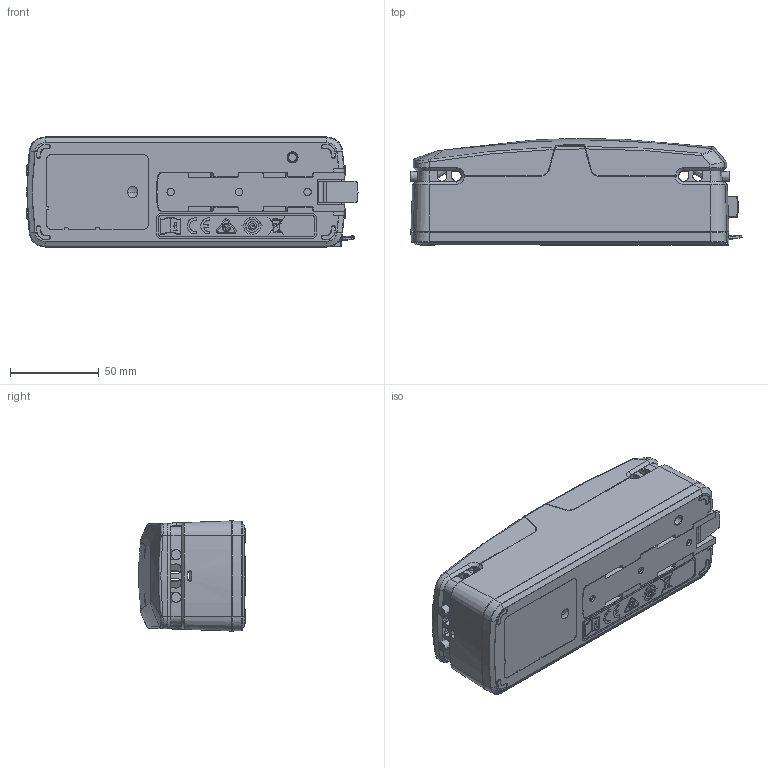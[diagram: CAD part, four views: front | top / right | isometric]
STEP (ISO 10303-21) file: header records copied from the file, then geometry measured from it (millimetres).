
FILE_DESCRIPTION((''),'2;1');
FILE_NAME('1038W4004_ASM','2018-09-26T17:41:06',('ti'),(''),'CREO PARAMETRIC BY PTC INC, 2017260','CREO PARAMETRIC BY PTC INC, 2017260','');
FILE_SCHEMA(('AUTOMOTIVE_DESIGN { 1 0 10303 214 1 1 1 1 }'));
Length unit declared in the file: millimetre
Products named in the file (6): 1038W4004-PJ2-BODY; 1038W4004-PJ2-PLUGS; 1038W4004-PJ2-LIB; 1038W4004-PJ2-BRACKET-BOTTOM; 1038W4004-PJ2-BRACKET-SIDE; 1038W4004_ASM
Assembly tree (5 placements, depth 2):
  1038W4004_ASM
    1038W4004-PJ2-BODY
    1038W4004-PJ2-PLUGS
    1038W4004-PJ2-LIB
    1038W4004-PJ2-BRACKET-BOTTOM
    1038W4004-PJ2-BRACKET-SIDE
Bounding box: 186.83 x 60.02 x 61.98 mm (x, y, z)
Volume: 449505.5 mm3; surface area: 121499.9 mm2
Topology: 8 solids, 8 shells, 4597 faces, 11870 edges, 7384 vertices
Faces by surface type: plane 1400, cylinder 1188, bspline 862, torus 735, cone 335, sphere 60, extrusion 9, revolution 8
Entity records: 191635 total; most frequent: CARTESIAN_POINT 86783, ORIENTED_EDGE 23620, DIRECTION 19443, EDGE_CURVE 11810, VERTEX_POINT 7384, AXIS2_PLACEMENT_3D 7225, VECTOR 4985, LINE 4976
